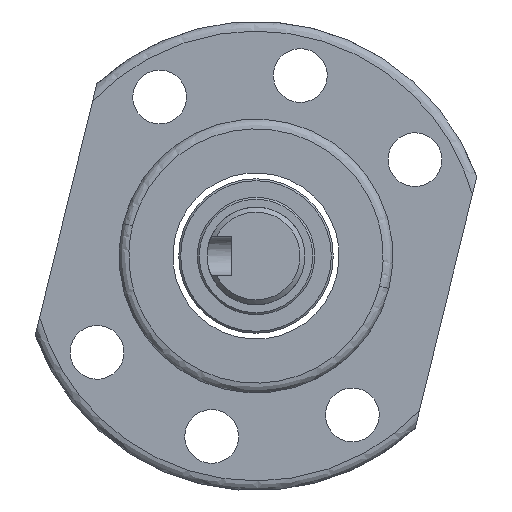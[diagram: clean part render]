
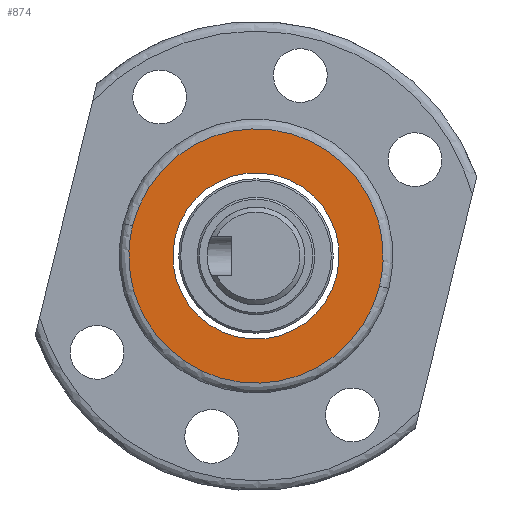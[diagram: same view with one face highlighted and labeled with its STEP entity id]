
A CAD part, left-side view. The second image highlights one B-rep face of the part: STEP entity #874.
In plain terms, the highlighted planar face has unit normal (-1, 0, 0).
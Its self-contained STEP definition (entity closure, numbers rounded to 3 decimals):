
#89 = ORIENTED_EDGE ( 'NONE', *, *, #1568, .F. ) ;
#151 = CARTESIAN_POINT ( 'NONE',  ( -72., 0., -8.5 ) ) ;
#157 = VERTEX_POINT ( 'NONE', #1327 ) ;
#324 = CARTESIAN_POINT ( 'NONE',  ( -72., 0., 0. ) ) ;
#358 = CARTESIAN_POINT ( 'NONE',  ( -72., 13., 26. ) ) ;
#404 = CARTESIAN_POINT ( 'NONE',  ( -72., -13., 0. ) ) ;
#480 = ORIENTED_EDGE ( 'NONE', *, *, #1966, .F. ) ;
#637 = CARTESIAN_POINT ( 'NONE',  ( -72., 0., 0. ) ) ;
#714 = EDGE_LOOP ( 'NONE', ( #89, #1063 ) ) ;
#751 = CIRCLE ( 'NONE', #2318, 8.5 ) ;
#799 = EDGE_LOOP ( 'NONE', ( #480, #1771 ) ) ;
#805 = CARTESIAN_POINT ( 'NONE',  ( -72., -13., 26. ) ) ;
#874 = ADVANCED_FACE ( 'NONE', ( #1480, #2336 ), #1271, .F. ) ;
#913 = AXIS2_PLACEMENT_3D ( 'NONE', #324, #1610, #1408 ) ;
#1031 = CARTESIAN_POINT ( 'NONE',  ( -72., 13., 0. ) ) ;
#1057 = VERTEX_POINT ( 'NONE', #2326 ) ;
#1059 = CARTESIAN_POINT ( 'NONE',  ( -72., 13., 0. ) ) ;
#1063 = ORIENTED_EDGE ( 'NONE', *, *, #1311, .F. ) ;
#1073 = VERTEX_POINT ( 'NONE', #1059 ) ;
#1187 = AXIS2_PLACEMENT_3D ( 'NONE', #1869, #1949, #2170 ) ;
#1271 = PLANE ( 'NONE',  #1187 ) ;
#1311 = EDGE_CURVE ( 'NONE', #2551, #157, #2102, .T. ) ;
#1327 = CARTESIAN_POINT ( 'NONE',  ( -72., 0., 8.5 ) ) ;
#1358 = DIRECTION ( 'NONE',  ( -1., 0., 0. ) ) ;
#1408 = DIRECTION ( 'NONE',  ( 0., 0., 1. ) ) ;
#1415 = CARTESIAN_POINT ( 'NONE',  ( -72., -13., 0. ) ) ;
#1480 = FACE_BOUND ( 'NONE', #714, .T. ) ;
#1496 = CARTESIAN_POINT ( 'NONE',  ( -72., -13., -26. ) ) ;
#1568 = EDGE_CURVE ( 'NONE', #157, #2551, #751, .T. ) ;
#1610 = DIRECTION ( 'NONE',  ( -1., 0., 0. ) ) ;
#1666 = DIRECTION ( 'NONE',  ( 0., 0., 1. ) ) ;
#1771 = ORIENTED_EDGE ( 'NONE', *, *, #2246, .F. ) ;
#1869 = CARTESIAN_POINT ( 'NONE',  ( -72., 9.75, 0. ) ) ;
#1873 = CARTESIAN_POINT ( 'NONE',  ( -72., 13., 0. ) ) ;
#1949 = DIRECTION ( 'NONE',  ( 1., 0., 0. ) ) ;
#1966 = EDGE_CURVE ( 'NONE', #1057, #1073, #2015, .T. ) ;
#2015 =( BOUNDED_CURVE ( )  B_SPLINE_CURVE ( 3, ( #404, #1496, #2338, #1873 ),
 .UNSPECIFIED., .F., .F. ) 
 B_SPLINE_CURVE_WITH_KNOTS ( ( 4, 4 ),
 ( 0., 1. ),
 .UNSPECIFIED. ) 
 CURVE ( )  GEOMETRIC_REPRESENTATION_ITEM ( )  RATIONAL_B_SPLINE_CURVE ( ( 1., 0.333, 0.333, 1. ) ) 
 REPRESENTATION_ITEM ( '' )  );
#2102 = CIRCLE ( 'NONE', #913, 8.5 ) ;
#2170 = DIRECTION ( 'NONE',  ( 0., 1., 0. ) ) ;
#2246 = EDGE_CURVE ( 'NONE', #1073, #1057, #2312, .T. ) ;
#2312 =( BOUNDED_CURVE ( )  B_SPLINE_CURVE ( 3, ( #1031, #358, #805, #1415 ),
 .UNSPECIFIED., .F., .F. ) 
 B_SPLINE_CURVE_WITH_KNOTS ( ( 4, 4 ),
 ( 0., 1. ),
 .UNSPECIFIED. ) 
 CURVE ( )  GEOMETRIC_REPRESENTATION_ITEM ( )  RATIONAL_B_SPLINE_CURVE ( ( 1., 0.333, 0.333, 1. ) ) 
 REPRESENTATION_ITEM ( '' )  );
#2318 = AXIS2_PLACEMENT_3D ( 'NONE', #637, #1358, #1666 ) ;
#2326 = CARTESIAN_POINT ( 'NONE',  ( -72., -13., 0. ) ) ;
#2336 = FACE_OUTER_BOUND ( 'NONE', #799, .T. ) ;
#2338 = CARTESIAN_POINT ( 'NONE',  ( -72., 13., -26. ) ) ;
#2551 = VERTEX_POINT ( 'NONE', #151 ) ;
